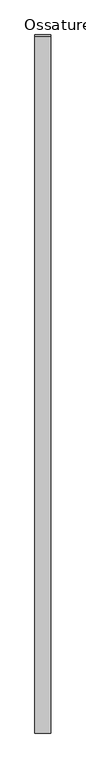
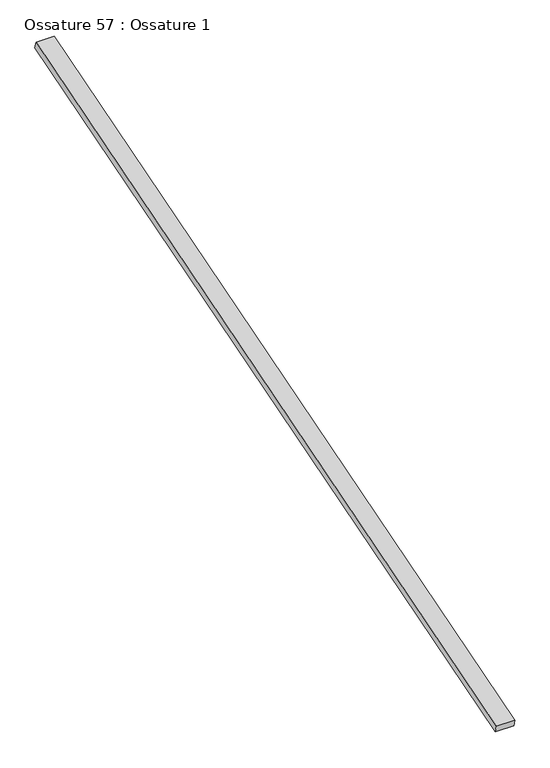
"""IFC4 building model written with IfcOpenShell, lengths in millimetres: beam geometry, Ossature 57 : Ossature 1."""

from ifc_helpers import new_model, si_unit, frame, origin, place, context, project, spatial, polyline, outline, extrude, source, transform, mapped, element, save


def ossature_57_ossature_1_5ad5674b(model_context):
    return source(origin(), model_context, "Body", "SweptSolid", [
        extrude(outline(polyline([(0.0, 0.0), (0.0, -4543.0299679), (-100.0, -4543.0299679), (-100.0, 0.0), (0.0, 0.0)])), frame((13870.2466393, -833.3913565, 8153.6336115), z_axis=(0.0, -0.28734788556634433, 0.9578262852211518), x_axis=(-1.0, 0.0, 0.0)), (0.0, 0.0, 1.0), 40.0),
    ])


if __name__ == "__main__":
    model = new_model("IFC4")
    model_context = context("Model", 3, world=origin())
    ifc_project = project(units=[si_unit("LENGTHUNIT", "METRE", prefix="MILLI")], contexts=[model_context])
    site = spatial("IfcSite", under=ifc_project)
    building = spatial("IfcBuilding", under=site)
    placement = place(None, origin())
    ossature_57_ossature_1_shape = ossature_57_ossature_1_5ad5674b(model_context)
    element("IfcBeam", 1, ObjectType="Ossature 57 : Ossature 1", at=placement, inside=building, context=model_context, shape_type="MappedRepresentation", body=[
        mapped(ossature_57_ossature_1_shape, transform((0.0, 0.0, 0.0), x_axis=(1.0, 0.0, 0.0), y_axis=(0.0, 1.0, 0.0), z_axis=(0.0, 0.0, 1.0))),
    ])
    save(model, "model.ifc")
